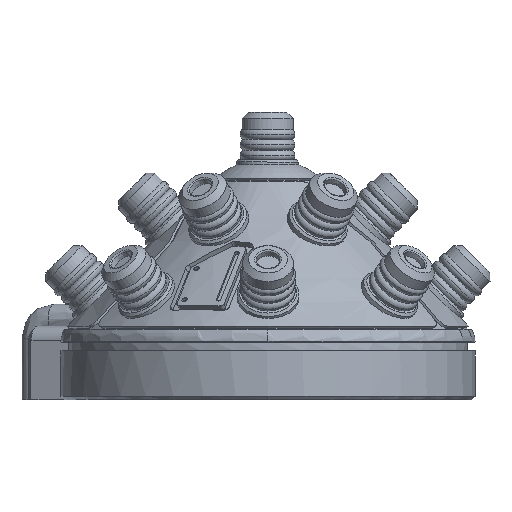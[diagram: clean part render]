
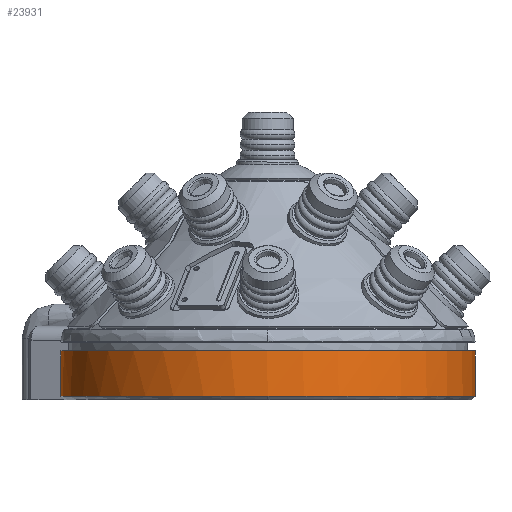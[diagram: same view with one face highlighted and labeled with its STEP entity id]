
A CAD part, front view. The second image highlights one B-rep face of the part: STEP entity #23931.
In plain terms, the highlighted cylindrical face has radius 25 mm (diameter 50 mm), a partial arc.
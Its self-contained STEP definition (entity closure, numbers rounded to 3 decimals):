
#18965=CARTESIAN_POINT('',(-24.999,0.252,0.402));
#18966=VERTEX_POINT('',#18965);
#18974=CARTESIAN_POINT('',(-24.999,0.252,5.901));
#18975=VERTEX_POINT('',#18974);
#18976=CARTESIAN_POINT('',(-24.999,0.252,5.901));
#18977=DIRECTION('',(0.,-0.,-1.));
#18978=VECTOR('',#18977,5.499);
#18979=LINE('',#18976,#18978);
#18980=EDGE_CURVE('',#18975,#18966,#18979,.T.);
#22531=CARTESIAN_POINT('',(-0.,-25.,0.402));
#22532=VERTEX_POINT('',#22531);
#22541=CARTESIAN_POINT('',(0.,25.,0.402));
#22542=VERTEX_POINT('',#22541);
#22550=CARTESIAN_POINT('',(0.,0.,0.402));
#22551=DIRECTION('',(0.,0.,1.));
#22552=DIRECTION('',(0.,-1.,0.));
#22553=AXIS2_PLACEMENT_3D('',#22550,#22551,#22552);
#22554=CIRCLE('',#22553,25.);
#22555=EDGE_CURVE('',#22532,#22542,#22554,.T.);
#23900=CARTESIAN_POINT('',(0.,0.,29.128));
#23901=DIRECTION('',(0.,-0.,-1.));
#23902=DIRECTION('',(0.,1.,-0.));
#23903=AXIS2_PLACEMENT_3D('',#23900,#23901,#23902);
#23904=CYLINDRICAL_SURFACE('',#23903,25.);
#23905=CARTESIAN_POINT('',(0.,25.,5.901));
#23906=VERTEX_POINT('',#23905);
#23907=CARTESIAN_POINT('',(0.,25.,0.402));
#23908=DIRECTION('',(-0.,0.,1.));
#23909=VECTOR('',#23908,5.499);
#23910=LINE('',#23907,#23909);
#23911=EDGE_CURVE('',#22542,#23906,#23910,.T.);
#23912=ORIENTED_EDGE('',*,*,#23911,.T.);
#23913=CARTESIAN_POINT('',(0.,0.,5.901));
#23914=DIRECTION('',(-0.,-0.,-1.));
#23915=DIRECTION('',(0.,-1.,0.));
#23916=AXIS2_PLACEMENT_3D('',#23913,#23914,#23915);
#23917=CIRCLE('',#23916,25.);
#23918=EDGE_CURVE('',#23906,#18975,#23917,.T.);
#23919=ORIENTED_EDGE('',*,*,#23918,.T.);
#23920=ORIENTED_EDGE('',*,*,#18980,.T.);
#23921=CARTESIAN_POINT('',(0.,0.,0.402));
#23922=DIRECTION('',(0.,0.,1.));
#23923=DIRECTION('',(0.,-1.,0.));
#23924=AXIS2_PLACEMENT_3D('',#23921,#23922,#23923);
#23925=CIRCLE('',#23924,25.);
#23926=EDGE_CURVE('',#18966,#22532,#23925,.T.);
#23927=ORIENTED_EDGE('',*,*,#23926,.T.);
#23928=ORIENTED_EDGE('',*,*,#22555,.T.);
#23929=EDGE_LOOP('',(#23912,#23919,#23920,#23927,#23928));
#23930=FACE_BOUND('',#23929,.T.);
#23931=ADVANCED_FACE('',(#23930),#23904,.T.);
